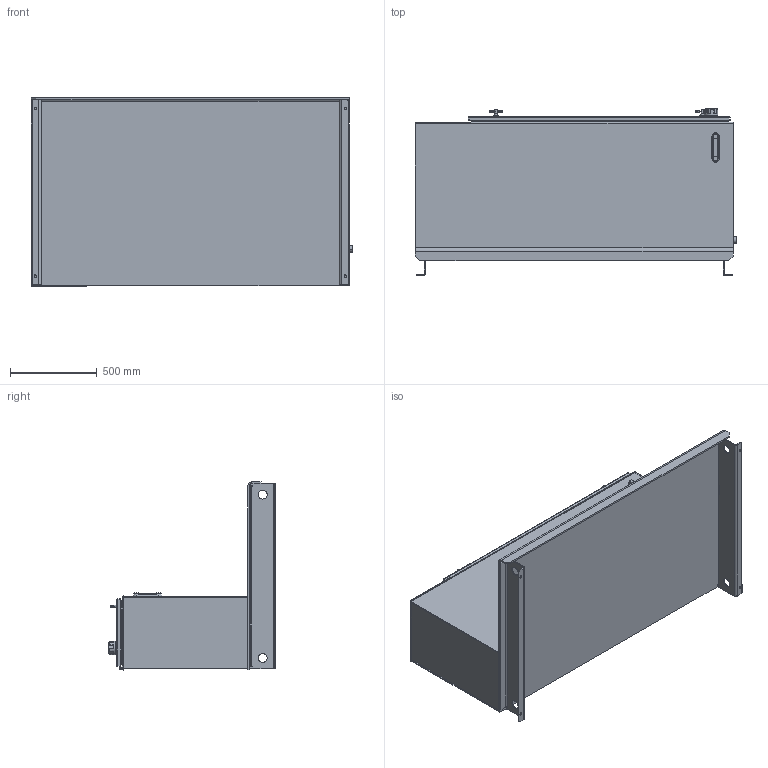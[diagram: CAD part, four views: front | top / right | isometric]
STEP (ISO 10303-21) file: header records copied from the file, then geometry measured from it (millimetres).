
FILE_DESCRIPTION (( 'STEP AP203' ), '1' );
FILE_NAME ('RLP120-PHT.STEP', '2015-01-07T19:07:25', ( '' ), ( '' ), 'SwSTEP 2.0', 'SolidWorks 2014', '' );
FILE_SCHEMA (( 'CONFIG_CONTROL_DESIGN' ));
Length unit declared in the file: inch
Products named in the file (1): RLP120-PHT
Bounding box: 1847.85 x 966.01 x 1082.65 mm (x, y, z)
Surface area: 12138358.3 mm2 (no closed solid volume)
Topology: 0 solids, 21 shells, 317 faces, 1049 edges, 726 vertices
Faces by surface type: plane 146, cylinder 114, bspline 17, torus 17, cone 16, sphere 7
Entity records: 12845 total; most frequent: CARTESIAN_POINT 3881, DIRECTION 1891, ORIENTED_EDGE 1602, EDGE_CURVE 1033, VERTEX_POINT 718, AXIS2_PLACEMENT_3D 652, LINE 587, VECTOR 587
